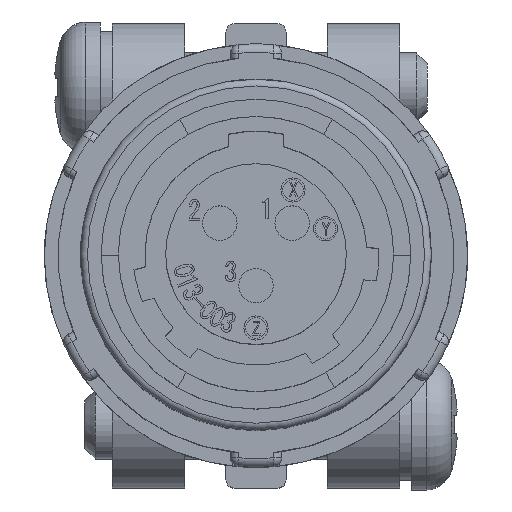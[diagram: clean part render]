
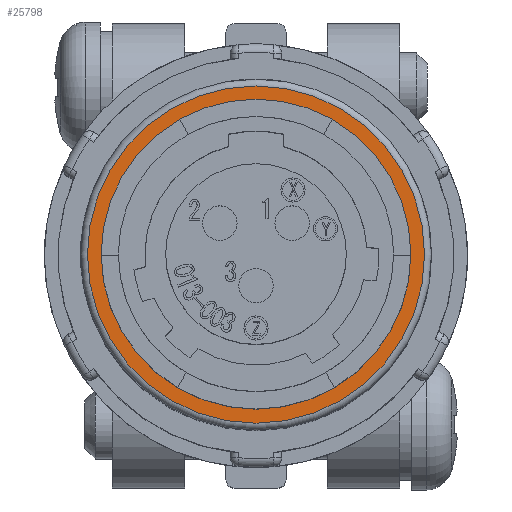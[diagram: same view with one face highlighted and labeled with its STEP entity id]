
A CAD part, top view. The second image highlights one B-rep face of the part: STEP entity #25798.
In plain terms, the highlighted planar face has unit normal (0, 0, 1).
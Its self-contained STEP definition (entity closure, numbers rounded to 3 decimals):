
#127 = CIRCLE ( 'NONE', #11249, 7.98 ) ;
#3725 = AXIS2_PLACEMENT_3D ( 'NONE', #17794, #23975, #13602 ) ;
#6162 = CARTESIAN_POINT ( 'NONE',  ( 0., 9.8, -19.2 ) ) ;
#6252 = DIRECTION ( 'NONE',  ( 0., 0., -1. ) ) ;
#8737 = VERTEX_POINT ( 'NONE', #17756 ) ;
#9987 = EDGE_LOOP ( 'NONE', ( #15004 ) ) ;
#11249 = AXIS2_PLACEMENT_3D ( 'NONE', #21084, #15218, #23232 ) ;
#11959 = VERTEX_POINT ( 'NONE', #22028 ) ;
#12532 = DIRECTION ( 'NONE',  ( -1., 0., 0. ) ) ;
#13602 = DIRECTION ( 'NONE',  ( 1., 0., 0. ) ) ;
#14424 = ORIENTED_EDGE ( 'NONE', *, *, #18096, .T. ) ;
#15004 = ORIENTED_EDGE ( 'NONE', *, *, #16969, .T. ) ;
#15218 = DIRECTION ( 'NONE',  ( 0., 0., -1. ) ) ;
#16969 = EDGE_CURVE ( 'NONE', #11959, #11959, #127, .T. ) ;
#17756 = CARTESIAN_POINT ( 'NONE',  ( 9.8, 0., -19.2 ) ) ;
#17794 = CARTESIAN_POINT ( 'NONE',  ( 0., 0., -19.2 ) ) ;
#18089 = FACE_OUTER_BOUND ( 'NONE', #26280, .T. ) ;
#18096 = EDGE_CURVE ( 'NONE', #8737, #8737, #18333, .T. ) ;
#18333 = CIRCLE ( 'NONE', #3725, 9.8 ) ;
#21084 = CARTESIAN_POINT ( 'NONE',  ( 0., 0., -19.2 ) ) ;
#22028 = CARTESIAN_POINT ( 'NONE',  ( -7.98, 0., -19.2 ) ) ;
#23232 = DIRECTION ( 'NONE',  ( -1., 0., 0. ) ) ;
#23975 = DIRECTION ( 'NONE',  ( 0., 0., 1. ) ) ;
#24815 = FACE_BOUND ( 'NONE', #9987, .T. ) ;
#24875 = PLANE ( 'NONE',  #25613 ) ;
#25613 = AXIS2_PLACEMENT_3D ( 'NONE', #6162, #6252, #12532 ) ;
#25798 = ADVANCED_FACE ( 'NONE', ( #24815, #18089 ), #24875, .F. ) ;
#26280 = EDGE_LOOP ( 'NONE', ( #14424 ) ) ;
